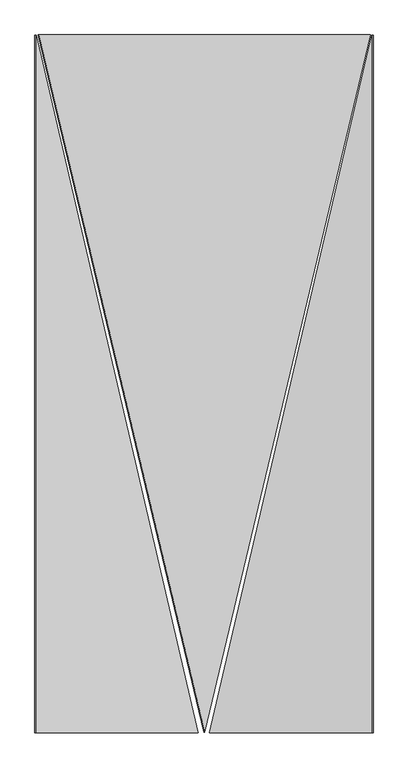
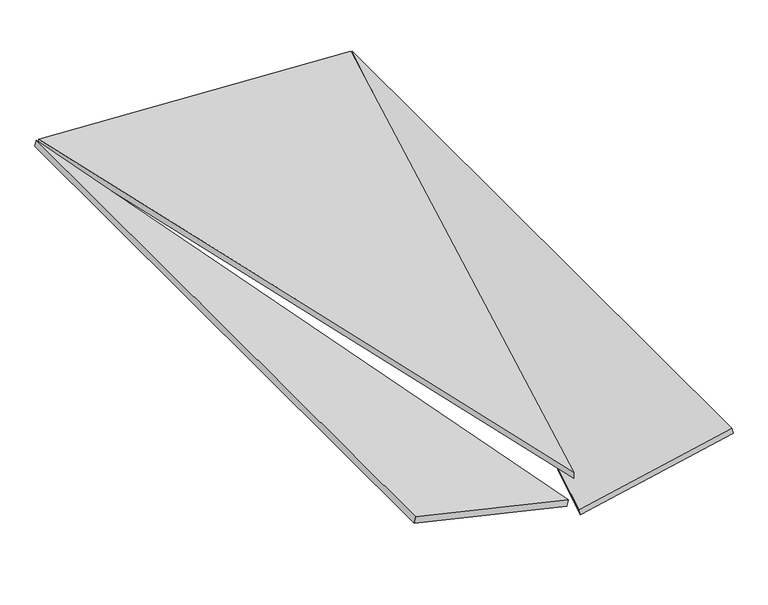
"""IFC4 building model written with IfcOpenShell, lengths in millimetres: proxy geometry, panel sufitowy 6 : panel sufitowy 6."""

from ifc_helpers import new_model, si_unit, frame, origin, place, context, project, spatial, polyline, outline, extrude, source, transform, mapped, element, save


def generic_models_4b981a6c(model_context):
    return source(origin(), model_context, "Body", "SweptSolid", [
        extrude(outline(polyline([(-900.9098917, -1e-07), (1235.4098448, -1e-07), (1006.1909889, -962.7191946), (-900.9098917, -1e-07)])), frame((549.8076335, -1457.4151922, 1155.8211529), z_axis=(0.05233595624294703, 0.0, 0.9986295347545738), x_axis=(-0.2313030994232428, 0.9728062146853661, 0.012122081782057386)), (0.0, 0.0, 1.0), 20.0),
        extrude(outline(polyline([(-127.5, 0.0), (-622.4999999, 0.0), (-127.5, 2079.0), (-127.5, 0.0)])), frame((1386.9334614, -2335.0, 1144.9939621), z_axis=(-0.20791169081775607, 0.0, 0.9781476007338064), x_axis=(0.9781476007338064, 0.0, 0.20791169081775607)), (0.0, 0.0, 1.0), 20.0),
        extrude(outline(polyline([(-127.4999999, 0.0), (-127.4999999, -2079.0), (-622.5, 0.0), (-127.4999999, 0.0)])), frame((129.371629, -2335.0, 1200.0257968), z_axis=(0.22495105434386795, 0.0, 0.9743700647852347), x_axis=(-0.9743700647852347, 0.0, 0.22495105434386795)), (0.0, 0.0, 1.0), 20.0),
    ])


if __name__ == "__main__":
    model = new_model("IFC4")
    model_context = context("Model", 3, world=origin())
    ifc_project = project(units=[si_unit("LENGTHUNIT", "METRE", prefix="MILLI")], contexts=[model_context])
    site = spatial("IfcSite", under=ifc_project)
    building = spatial("IfcBuilding", under=site)
    placement = place(None, origin())
    generic_models_shape = generic_models_4b981a6c(model_context)
    element("IfcBuildingElementProxy", 1, Name="panel sufitowy 6 : panel sufitowy 6", ObjectType="panel sufitowy 6 : panel sufitowy 6", at=placement, inside=building, context=model_context, shape_type="MappedRepresentation", body=[
        mapped(generic_models_shape, transform((0.0, 0.0, 0.0), x_axis=(1.0, 0.0, 0.0), y_axis=(0.0, 1.0, 0.0), z_axis=(0.0, 0.0, 1.0))),
    ])
    save(model, "model.ifc")
